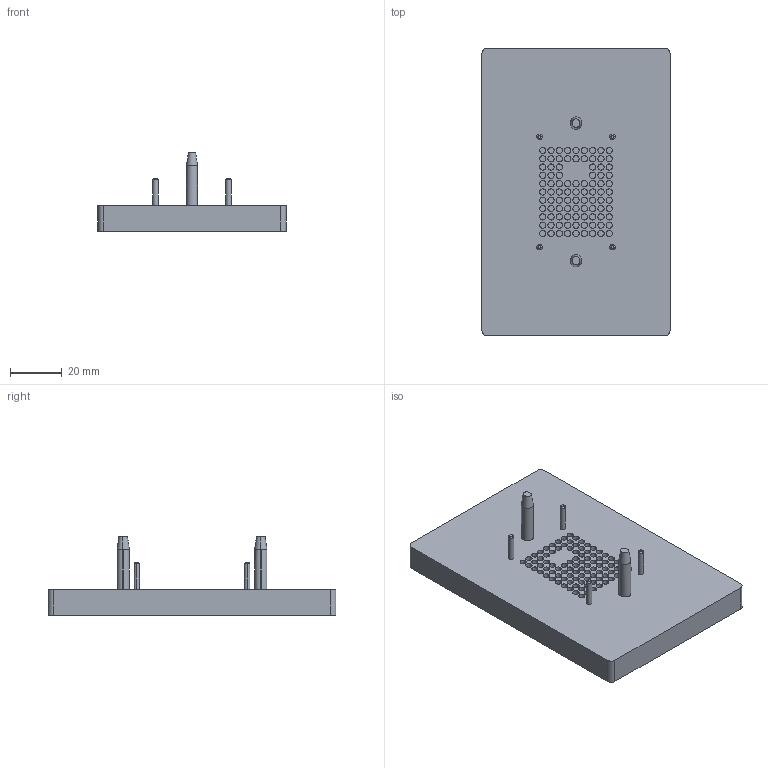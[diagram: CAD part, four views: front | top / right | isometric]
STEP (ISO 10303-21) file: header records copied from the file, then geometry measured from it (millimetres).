
FILE_DESCRIPTION (( 'STEP AP214' ), '1' );
FILE_NAME ('FM3 Bottom Fixture.STEP', '2021-01-13T16:40:33', ( '' ), ( '' ), 'SwSTEP 2.0', 'SolidWorks 2018', '' );
FILE_SCHEMA (( 'AUTOMOTIVE_DESIGN' ));
Length unit declared in the file: millimetre
Products named in the file (1): FM3 Bottom Fixture
Bounding box: 72.4 x 110.75 x 30.32 mm (x, y, z)
Volume: 78382.2 mm3; surface area: 24676.9 mm2
Topology: 1 solids, 1 shells, 323 faces, 658 edges, 436 vertices
Faces by surface type: cylinder 202, plane 109, bspline 12
Entity records: 12855 total; most frequent: CARTESIAN_POINT 3616, DIRECTION 1644, ORIENTED_EDGE 1316, AXIS2_PLACEMENT_3D 708, EDGE_CURVE 658, VERTEX_POINT 436, EDGE_LOOP 422, CIRCLE 396
